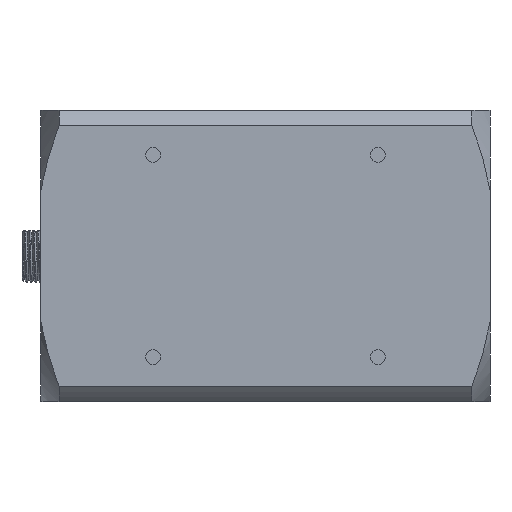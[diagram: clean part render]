
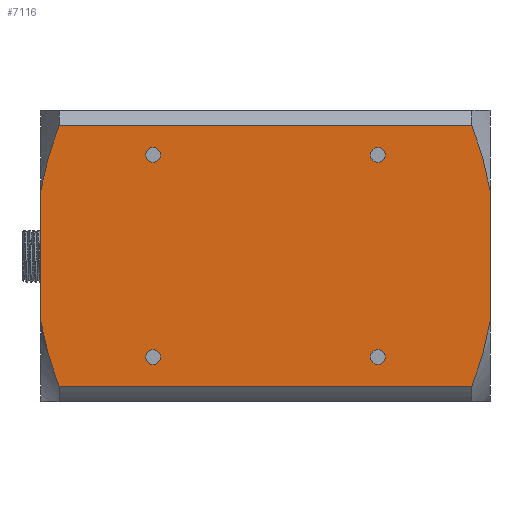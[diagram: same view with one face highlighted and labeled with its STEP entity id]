
A CAD part, front view. The second image highlights one B-rep face of the part: STEP entity #7116.
In plain terms, the highlighted planar face has unit normal (0, -1, 0).
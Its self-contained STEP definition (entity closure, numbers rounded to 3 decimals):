
#977=LINE('',#36308,#2977);
#979=LINE('',#36325,#2979);
#981=LINE('',#36340,#2981);
#983=LINE('',#36348,#2983);
#2977=VECTOR('',#29627,1.);
#2979=VECTOR('',#29641,1.);
#2981=VECTOR('',#29649,1.);
#2983=VECTOR('',#29659,1.);
#5516=FACE_BOUND('',#10148,.T.);
#5517=FACE_BOUND('',#10149,.T.);
#5518=FACE_BOUND('',#10150,.T.);
#5519=FACE_BOUND('',#10151,.T.);
#5520=FACE_BOUND('',#10152,.T.);
#6292=PLANE('',#27419);
#7116=ADVANCED_FACE('',(#5516,#5517,#5518,#5519,#5520),#6292,.T.);
#10148=EDGE_LOOP('',(#13126,#13127));
#10149=EDGE_LOOP('',(#13128,#13129));
#10150=EDGE_LOOP('',(#13130,#13131));
#10151=EDGE_LOOP('',(#13132,#13133));
#10152=EDGE_LOOP('',(#13134,#13135,#13136,#13137,#13138,#13139,#13140,#13141));
#12160=CIRCLE('',#27403,1.65);
#12161=CIRCLE('',#27405,1.65);
#12162=CIRCLE('',#27407,1.65);
#12163=CIRCLE('',#27409,1.65);
#12164=CIRCLE('',#27411,1.65);
#12165=CIRCLE('',#27413,1.65);
#12166=CIRCLE('',#27415,1.65);
#12167=CIRCLE('',#27417,1.65);
#13126=ORIENTED_EDGE('',*,*,#22800,.T.);
#13127=ORIENTED_EDGE('',*,*,#22798,.T.);
#13128=ORIENTED_EDGE('',*,*,#22796,.T.);
#13129=ORIENTED_EDGE('',*,*,#22794,.T.);
#13130=ORIENTED_EDGE('',*,*,#22792,.T.);
#13131=ORIENTED_EDGE('',*,*,#22790,.T.);
#13132=ORIENTED_EDGE('',*,*,#22788,.T.);
#13133=ORIENTED_EDGE('',*,*,#22786,.T.);
#13134=ORIENTED_EDGE('',*,*,#22781,.F.);
#13135=ORIENTED_EDGE('',*,*,#22801,.T.);
#13136=ORIENTED_EDGE('',*,*,#22764,.F.);
#13137=ORIENTED_EDGE('',*,*,#22762,.F.);
#13138=ORIENTED_EDGE('',*,*,#22771,.T.);
#13139=ORIENTED_EDGE('',*,*,#22772,.F.);
#13140=ORIENTED_EDGE('',*,*,#22776,.F.);
#13141=ORIENTED_EDGE('',*,*,#22726,.T.);
#20270=VERTEX_POINT('',#36193);
#20271=VERTEX_POINT('',#36194);
#20302=VERTEX_POINT('',#36300);
#20303=VERTEX_POINT('',#36305);
#20304=VERTEX_POINT('',#36309);
#20308=VERTEX_POINT('',#36324);
#20309=VERTEX_POINT('',#36331);
#20312=VERTEX_POINT('',#36347);
#20314=VERTEX_POINT('',#36360);
#20315=VERTEX_POINT('',#36362);
#20316=VERTEX_POINT('',#36368);
#20317=VERTEX_POINT('',#36370);
#20318=VERTEX_POINT('',#36376);
#20319=VERTEX_POINT('',#36378);
#20320=VERTEX_POINT('',#36384);
#20321=VERTEX_POINT('',#36386);
#22726=EDGE_CURVE('',#20270,#20271,#26360,.T.);
#22762=EDGE_CURVE('',#20302,#20303,#26370,.T.);
#22764=EDGE_CURVE('',#20303,#20304,#977,.T.);
#22771=EDGE_CURVE('',#20302,#20308,#979,.T.);
#22772=EDGE_CURVE('',#20309,#20308,#26372,.T.);
#22776=EDGE_CURVE('',#20270,#20309,#981,.T.);
#22781=EDGE_CURVE('',#20312,#20271,#983,.T.);
#22786=EDGE_CURVE('',#20315,#20314,#12160,.T.);
#22788=EDGE_CURVE('',#20314,#20315,#12161,.T.);
#22790=EDGE_CURVE('',#20317,#20316,#12162,.T.);
#22792=EDGE_CURVE('',#20316,#20317,#12163,.T.);
#22794=EDGE_CURVE('',#20319,#20318,#12164,.T.);
#22796=EDGE_CURVE('',#20318,#20319,#12165,.T.);
#22798=EDGE_CURVE('',#20321,#20320,#12166,.T.);
#22800=EDGE_CURVE('',#20320,#20321,#12167,.T.);
#22801=EDGE_CURVE('',#20312,#20304,#26375,.T.);
#26360=B_SPLINE_CURVE_WITH_KNOTS('',3,(#36189,#36190,#36191,#36192),
 .UNSPECIFIED.,.F.,.F.,(4,4),(0.,1.),.UNSPECIFIED.);
#26370=B_SPLINE_CURVE_WITH_KNOTS('',3,(#36301,#36302,#36303,#36304),
 .UNSPECIFIED.,.F.,.F.,(4,4),(0.,1.),.UNSPECIFIED.);
#26372=B_SPLINE_CURVE_WITH_KNOTS('',3,(#36327,#36328,#36329,#36330),
 .UNSPECIFIED.,.F.,.F.,(4,4),(0.,1.),.UNSPECIFIED.);
#26375=B_SPLINE_CURVE_WITH_KNOTS('',3,(#36391,#36392,#36393,#36394),
 .UNSPECIFIED.,.F.,.F.,(4,4),(0.,1.),.UNSPECIFIED.);
#27403=AXIS2_PLACEMENT_3D('',#36361,#29670,#29671);
#27405=AXIS2_PLACEMENT_3D('',#36365,#29675,#29676);
#27407=AXIS2_PLACEMENT_3D('',#36369,#29680,#29681);
#27409=AXIS2_PLACEMENT_3D('',#36373,#29685,#29686);
#27411=AXIS2_PLACEMENT_3D('',#36377,#29690,#29691);
#27413=AXIS2_PLACEMENT_3D('',#36381,#29695,#29696);
#27415=AXIS2_PLACEMENT_3D('',#36385,#29700,#29701);
#27417=AXIS2_PLACEMENT_3D('',#36389,#29705,#29706);
#27419=AXIS2_PLACEMENT_3D('',#36395,#29709,#29710);
#29627=DIRECTION('',(1.,0.,0.));
#29641=DIRECTION('',(0.,0.,-1.));
#29649=DIRECTION('',(-1.,0.,0.));
#29659=DIRECTION('',(0.,0.,-1.));
#29670=DIRECTION('',(0.,1.,0.));
#29671=DIRECTION('',(0.,0.,1.));
#29675=DIRECTION('',(0.,1.,0.));
#29676=DIRECTION('',(0.,0.,-1.));
#29680=DIRECTION('',(0.,1.,0.));
#29681=DIRECTION('',(0.,0.,1.));
#29685=DIRECTION('',(0.,1.,0.));
#29686=DIRECTION('',(0.,0.,-1.));
#29690=DIRECTION('',(0.,1.,0.));
#29691=DIRECTION('',(0.,0.,1.));
#29695=DIRECTION('',(0.,1.,0.));
#29696=DIRECTION('',(0.,0.,-1.));
#29700=DIRECTION('',(0.,1.,0.));
#29701=DIRECTION('',(0.,0.,1.));
#29705=DIRECTION('',(0.,1.,0.));
#29706=DIRECTION('',(0.,0.,-1.));
#29709=DIRECTION('',(0.,-1.,0.));
#29710=DIRECTION('',(0.,0.,1.));
#36189=CARTESIAN_POINT('',(90.959,-59.49,-148.541));
#36190=CARTESIAN_POINT('',(92.723,-59.49,-143.858));
#36191=CARTESIAN_POINT('',(94.214,-59.49,-139.099));
#36192=CARTESIAN_POINT('',(95.,-59.49,-134.141));
#36193=CARTESIAN_POINT('',(90.959,-59.49,-148.541));
#36194=CARTESIAN_POINT('',(95.,-59.49,-134.141));
#36300=CARTESIAN_POINT('',(-5.,-59.49,-104.859));
#36301=CARTESIAN_POINT('',(-5.,-59.49,-104.859));
#36302=CARTESIAN_POINT('',(-4.214,-59.49,-99.901));
#36303=CARTESIAN_POINT('',(-2.723,-59.49,-95.142));
#36304=CARTESIAN_POINT('',(-0.959,-59.49,-90.459));
#36305=CARTESIAN_POINT('',(-0.959,-59.49,-90.459));
#36308=CARTESIAN_POINT('',(-5.,-59.49,-90.459));
#36309=CARTESIAN_POINT('',(90.959,-59.49,-90.459));
#36324=CARTESIAN_POINT('',(-5.,-59.49,-134.141));
#36325=CARTESIAN_POINT('',(-5.,-59.49,-97.959));
#36327=CARTESIAN_POINT('',(-0.959,-59.49,-148.541));
#36328=CARTESIAN_POINT('',(-2.723,-59.49,-143.858));
#36329=CARTESIAN_POINT('',(-4.214,-59.49,-139.099));
#36330=CARTESIAN_POINT('',(-5.,-59.49,-134.141));
#36331=CARTESIAN_POINT('',(-0.959,-59.49,-148.541));
#36340=CARTESIAN_POINT('',(95.,-59.49,-148.541));
#36347=CARTESIAN_POINT('',(95.,-59.49,-104.859));
#36348=CARTESIAN_POINT('',(95.,-59.49,-97.959));
#36360=CARTESIAN_POINT('',(20.,-59.49,-98.65));
#36361=CARTESIAN_POINT('',(20.,-59.49,-97.));
#36362=CARTESIAN_POINT('',(20.,-59.49,-95.35));
#36365=CARTESIAN_POINT('',(20.,-59.49,-97.));
#36368=CARTESIAN_POINT('',(70.,-59.49,-143.65));
#36369=CARTESIAN_POINT('',(70.,-59.49,-142.));
#36370=CARTESIAN_POINT('',(70.,-59.49,-140.35));
#36373=CARTESIAN_POINT('',(70.,-59.49,-142.));
#36376=CARTESIAN_POINT('',(20.,-59.49,-143.65));
#36377=CARTESIAN_POINT('',(20.,-59.49,-142.));
#36378=CARTESIAN_POINT('',(20.,-59.49,-140.35));
#36381=CARTESIAN_POINT('',(20.,-59.49,-142.));
#36384=CARTESIAN_POINT('',(70.,-59.49,-98.65));
#36385=CARTESIAN_POINT('',(70.,-59.49,-97.));
#36386=CARTESIAN_POINT('',(70.,-59.49,-95.35));
#36389=CARTESIAN_POINT('',(70.,-59.49,-97.));
#36391=CARTESIAN_POINT('',(95.,-59.49,-104.859));
#36392=CARTESIAN_POINT('',(94.214,-59.49,-99.901));
#36393=CARTESIAN_POINT('',(92.723,-59.49,-95.142));
#36394=CARTESIAN_POINT('',(90.959,-59.49,-90.459));
#36395=CARTESIAN_POINT('',(95.,-59.49,-144.5));
